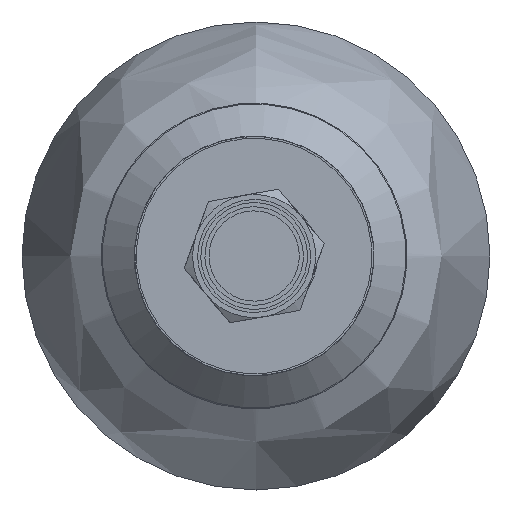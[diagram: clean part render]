
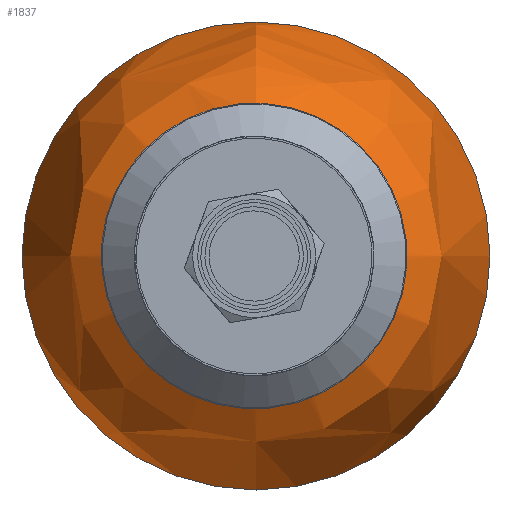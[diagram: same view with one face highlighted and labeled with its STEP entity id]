
A CAD part, left-side view. The second image highlights one B-rep face of the part: STEP entity #1837.
In plain terms, the highlighted free-form (B-spline) face has degree [2, 2] with [3, 9] control points.
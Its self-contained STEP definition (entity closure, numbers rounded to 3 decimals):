
#207=(
BOUNDED_CURVE()
B_SPLINE_CURVE(2,(#3079,#3080,#3081),.UNSPECIFIED.,.F.,.F.)
B_SPLINE_CURVE_WITH_KNOTS((3,3),(0.,1.335),
 .UNSPECIFIED.)
CURVE()
GEOMETRIC_REPRESENTATION_ITEM()
RATIONAL_B_SPLINE_CURVE((1.,0.785,1.))
REPRESENTATION_ITEM($)
);
#235=(
BOUNDED_SURFACE()
B_SPLINE_SURFACE(2,2,((#3052,#3053,#3054,#3055,#3056,#3057,#3058,#3059,
#3060),(#3061,#3062,#3063,#3064,#3065,#3066,#3067,#3068,#3069),(#3070,#3071,
#3072,#3073,#3074,#3075,#3076,#3077,#3078)),.UNSPECIFIED.,.F.,.T.,.F.)
B_SPLINE_SURFACE_WITH_KNOTS((3,3),(3,2,2,2,3),(-1.335,0.),
(-3.142,-1.571,0.,1.571,3.142),
 .UNSPECIFIED.)
GEOMETRIC_REPRESENTATION_ITEM()
RATIONAL_B_SPLINE_SURFACE(((1.,0.707,1.,0.707,1.,
0.707,1.,0.707,1.),(0.785,0.555,
0.785,0.555,0.785,0.555,0.785,
0.555,0.785),(1.,0.707,1.,0.707,
1.,0.707,1.,0.707,1.)))
REPRESENTATION_ITEM($)
SURFACE()
);
#453=FACE_OUTER_BOUND($,#582,.T.);
#582=EDGE_LOOP($,(#1383,#1384,#1385,#1386,#1387,#1388));
#808=CIRCLE($,#1998,114.);
#809=CIRCLE($,#1999,114.);
#814=CIRCLE($,#2007,30.);
#815=CIRCLE($,#2008,30.);
#946=VERTEX_POINT($,#2973);
#947=VERTEX_POINT($,#2974);
#952=VERTEX_POINT($,#3048);
#953=VERTEX_POINT($,#3049);
#1125=EDGE_CURVE($,#946,#947,#808,.T.);
#1126=EDGE_CURVE($,#947,#946,#809,.T.);
#1133=EDGE_CURVE($,#952,#953,#814,.T.);
#1134=EDGE_CURVE($,#953,#952,#815,.T.);
#1135=EDGE_CURVE($,#947,#953,#207,.T.);
#1383=ORIENTED_EDGE($,*,*,#1125,.F.);
#1384=ORIENTED_EDGE($,*,*,#1126,.F.);
#1385=ORIENTED_EDGE($,*,*,#1135,.T.);
#1386=ORIENTED_EDGE($,*,*,#1134,.T.);
#1387=ORIENTED_EDGE($,*,*,#1133,.T.);
#1388=ORIENTED_EDGE($,*,*,#1135,.F.);
#1837=ADVANCED_FACE($,(#453),#235,.F.);
#1998=AXIS2_PLACEMENT_3D($,#2975,#2310,#2311);
#1999=AXIS2_PLACEMENT_3D($,#2976,#2312,#2313);
#2007=AXIS2_PLACEMENT_3D($,#3050,#2328,#2329);
#2008=AXIS2_PLACEMENT_3D($,#3051,#2330,#2331);
#2310=DIRECTION('center_axis',(1.,0.,0.));
#2311=DIRECTION('ref_axis',(0.,1.,0.));
#2312=DIRECTION('center_axis',(1.,0.,0.));
#2313=DIRECTION('ref_axis',(0.,1.,0.));
#2328=DIRECTION('center_axis',(1.,0.,0.));
#2329=DIRECTION('ref_axis',(0.,1.,0.));
#2330=DIRECTION('center_axis',(1.,0.,0.));
#2331=DIRECTION('ref_axis',(0.,1.,0.));
#2973=CARTESIAN_POINT('',(-140.659,63.5,0.));
#2974=CARTESIAN_POINT('',(-140.659,-50.5,114.));
#2975=CARTESIAN_POINT('Origin',(-140.659,-50.5,0.));
#2976=CARTESIAN_POINT('Origin',(-140.659,-50.5,0.));
#3048=CARTESIAN_POINT('',(-247.188,-20.5,0.));
#3049=CARTESIAN_POINT('',(-247.188,-50.5,30.));
#3050=CARTESIAN_POINT('Origin',(-247.188,-50.5,0.));
#3051=CARTESIAN_POINT('Origin',(-247.188,-50.5,0.));
#3052=CARTESIAN_POINT('Ctrl Pts',(-247.188,-50.5,30.));
#3053=CARTESIAN_POINT('Ctrl Pts',(-247.188,-80.5,30.));
#3054=CARTESIAN_POINT('Ctrl Pts',(-247.188,-80.5,0.));
#3055=CARTESIAN_POINT('Ctrl Pts',(-247.188,-80.5,-30.));
#3056=CARTESIAN_POINT('Ctrl Pts',(-247.188,-50.5,-30.));
#3057=CARTESIAN_POINT('Ctrl Pts',(-247.188,-20.5,-30.));
#3058=CARTESIAN_POINT('Ctrl Pts',(-247.188,-20.5,0.));
#3059=CARTESIAN_POINT('Ctrl Pts',(-247.188,-20.5,30.));
#3060=CARTESIAN_POINT('Ctrl Pts',(-247.188,-50.5,30.));
#3061=CARTESIAN_POINT('Ctrl Pts',(-227.041,-50.5,114.));
#3062=CARTESIAN_POINT('Ctrl Pts',(-227.041,-164.5,114.));
#3063=CARTESIAN_POINT('Ctrl Pts',(-227.041,-164.5,0.));
#3064=CARTESIAN_POINT('Ctrl Pts',(-227.041,-164.5,-114.));
#3065=CARTESIAN_POINT('Ctrl Pts',(-227.041,-50.5,-114.));
#3066=CARTESIAN_POINT('Ctrl Pts',(-227.041,63.5,-114.));
#3067=CARTESIAN_POINT('Ctrl Pts',(-227.041,63.5,0.));
#3068=CARTESIAN_POINT('Ctrl Pts',(-227.041,63.5,114.));
#3069=CARTESIAN_POINT('Ctrl Pts',(-227.041,-50.5,114.));
#3070=CARTESIAN_POINT('Ctrl Pts',(-140.659,-50.5,114.));
#3071=CARTESIAN_POINT('Ctrl Pts',(-140.659,-164.5,114.));
#3072=CARTESIAN_POINT('Ctrl Pts',(-140.659,-164.5,0.));
#3073=CARTESIAN_POINT('Ctrl Pts',(-140.659,-164.5,-114.));
#3074=CARTESIAN_POINT('Ctrl Pts',(-140.659,-50.5,-114.));
#3075=CARTESIAN_POINT('Ctrl Pts',(-140.659,63.5,-114.));
#3076=CARTESIAN_POINT('Ctrl Pts',(-140.659,63.5,0.));
#3077=CARTESIAN_POINT('Ctrl Pts',(-140.659,63.5,114.));
#3078=CARTESIAN_POINT('Ctrl Pts',(-140.659,-50.5,114.));
#3079=CARTESIAN_POINT('Ctrl Pts',(-140.659,-50.5,114.));
#3080=CARTESIAN_POINT('Ctrl Pts',(-227.041,-50.5,114.));
#3081=CARTESIAN_POINT('Ctrl Pts',(-247.188,-50.5,30.));
